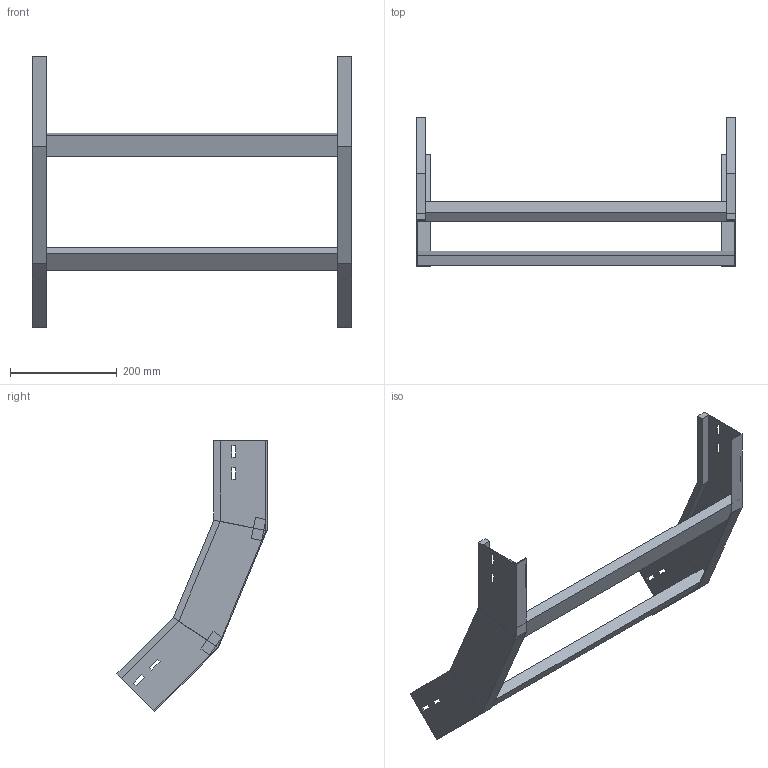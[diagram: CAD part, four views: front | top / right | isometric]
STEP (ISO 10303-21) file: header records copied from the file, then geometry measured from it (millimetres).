
FILE_DESCRIPTION (( 'STEP AP214' ), '1' );
FILE_NAME ('A2X31B5D600XX.step', '2025-03-20T10:04:39', ( '' ), ( '' ), 'SwSTEP 2.0', 'SolidWorks 2023', '' );
FILE_SCHEMA (( 'AUTOMOTIVE_DESIGN' ));
Length unit declared in the file: millimetre
Products named in the file (3): A2X31B5D600XX; LONGH.SALITA_45°_H100_R500; TRAVERSINO_600
Assembly tree (4 placements, depth 2):
  A2X31B5D600XX
    LONGH.SALITA_45°_H100_R500  x2
    TRAVERSINO_600  x2
Bounding box: 600 x 281.75 x 509.5 mm (x, y, z)
Volume: 1428676.9 mm3; surface area: 456822.2 mm2
Topology: 4 solids, 4 shells, 96 faces, 232 edges, 144 vertices
Faces by surface type: plane 96
Entity records: 1472 total; most frequent: CARTESIAN_POINT 243, ORIENTED_EDGE 232, DIRECTION 226, LINE 116, EDGE_CURVE 116, VECTOR 116, VERTEX_POINT 72, EDGE_LOOP 56
